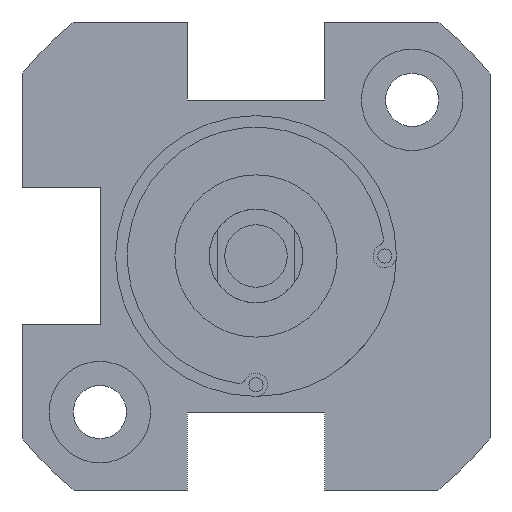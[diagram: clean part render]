
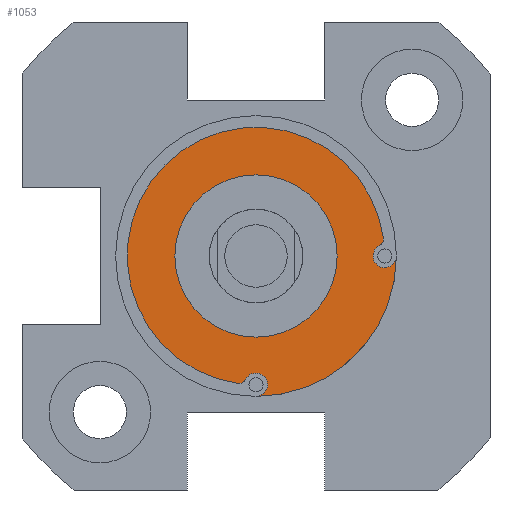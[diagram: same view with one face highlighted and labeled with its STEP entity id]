
A CAD part, front view. The second image highlights one B-rep face of the part: STEP entity #1053.
In plain terms, the highlighted planar face has unit normal (0, -1, 0).
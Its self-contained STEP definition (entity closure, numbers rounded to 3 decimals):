
#31 = DIRECTION ( 'NONE',  ( 0., 0., 1. ) ) ;
#97 = CARTESIAN_POINT ( 'NONE',  ( 7.902, -46.5, 0.665 ) ) ;
#217 = EDGE_CURVE ( 'NONE', #1564, #2709, #703, .T. ) ;
#259 = DIRECTION ( 'NONE',  ( 0., 1., 0. ) ) ;
#305 = VERTEX_POINT ( 'NONE', #1294 ) ;
#327 = VERTEX_POINT ( 'NONE', #97 ) ;
#348 = ORIENTED_EDGE ( 'NONE', *, *, #2360, .F. ) ;
#349 = CARTESIAN_POINT ( 'NONE',  ( 8.25, -46.5, 0. ) ) ;
#417 = AXIS2_PLACEMENT_3D ( 'NONE', #1517, #2299, #2796 ) ;
#477 = ORIENTED_EDGE ( 'NONE', *, *, #2644, .F. ) ;
#554 = EDGE_CURVE ( 'NONE', #2197, #1564, #1389, .T. ) ;
#559 = DIRECTION ( 'NONE',  ( 0., 1., 0. ) ) ;
#587 = CARTESIAN_POINT ( 'NONE',  ( 9., -46.5, 0. ) ) ;
#629 = CARTESIAN_POINT ( 'NONE',  ( 0., -46.5, -5.2 ) ) ;
#640 = CARTESIAN_POINT ( 'NONE',  ( 0., -46.5, -9. ) ) ;
#643 = EDGE_CURVE ( 'NONE', #1372, #2197, #2262, .T. ) ;
#647 = VERTEX_POINT ( 'NONE', #2629 ) ;
#703 = CIRCLE ( 'NONE', #2470, 0.75 ) ;
#724 = DIRECTION ( 'NONE',  ( 0., 1., 0. ) ) ;
#727 = FACE_OUTER_BOUND ( 'NONE', #3028, .T. ) ;
#757 = CIRCLE ( 'NONE', #2732, 0.75 ) ;
#834 = AXIS2_PLACEMENT_3D ( 'NONE', #2983, #2498, #1511 ) ;
#835 = ORIENTED_EDGE ( 'NONE', *, *, #3127, .T. ) ;
#866 = VERTEX_POINT ( 'NONE', #1813 ) ;
#881 = DIRECTION ( 'NONE',  ( 0., 0., -1. ) ) ;
#916 = AXIS2_PLACEMENT_3D ( 'NONE', #3117, #1875, #2120 ) ;
#925 = DIRECTION ( 'NONE',  ( 0., 0., -1. ) ) ;
#978 = CARTESIAN_POINT ( 'NONE',  ( 0., -46.5, 0. ) ) ;
#983 = PLANE ( 'NONE',  #834 ) ;
#1053 = ADVANCED_FACE ( 'NONE', ( #727, #2024 ), #983, .T. ) ;
#1069 = ORIENTED_EDGE ( 'NONE', *, *, #2187, .T. ) ;
#1099 = CARTESIAN_POINT ( 'NONE',  ( -1.108, -46.5, -7.67 ) ) ;
#1104 = DIRECTION ( 'NONE',  ( 0., 0., 1. ) ) ;
#1107 = AXIS2_PLACEMENT_3D ( 'NONE', #2343, #559, #3067 ) ;
#1203 = ORIENTED_EDGE ( 'NONE', *, *, #2690, .T. ) ;
#1294 = CARTESIAN_POINT ( 'NONE',  ( 8.25, -46.5, -0.75 ) ) ;
#1345 = DIRECTION ( 'NONE',  ( 0., 0., 1. ) ) ;
#1372 = VERTEX_POINT ( 'NONE', #1873 ) ;
#1389 = CIRCLE ( 'NONE', #417, 0.5 ) ;
#1443 = VERTEX_POINT ( 'NONE', #629 ) ;
#1511 = DIRECTION ( 'NONE',  ( 0., 0., 1. ) ) ;
#1517 = CARTESIAN_POINT ( 'NONE',  ( -1.108, -46.5, -7.67 ) ) ;
#1564 = VERTEX_POINT ( 'NONE', #2895 ) ;
#1742 = CARTESIAN_POINT ( 'NONE',  ( 0., -46.5, -8.25 ) ) ;
#1813 = CARTESIAN_POINT ( 'NONE',  ( 0., -46.5, 5.2 ) ) ;
#1840 = AXIS2_PLACEMENT_3D ( 'NONE', #1099, #2362, #881 ) ;
#1873 = CARTESIAN_POINT ( 'NONE',  ( -1.179, -46.5, -8.165 ) ) ;
#1875 = DIRECTION ( 'NONE',  ( 0., 1., 0. ) ) ;
#1943 = ORIENTED_EDGE ( 'NONE', *, *, #2579, .T. ) ;
#1998 = DIRECTION ( 'NONE',  ( 0., 0., 1. ) ) ;
#2001 = DIRECTION ( 'NONE',  ( 0., 1., 0. ) ) ;
#2024 = FACE_BOUND ( 'NONE', #2398, .T. ) ;
#2096 = CIRCLE ( 'NONE', #2765, 5.2 ) ;
#2102 = DIRECTION ( 'NONE',  ( 0., 1., 0. ) ) ;
#2120 = DIRECTION ( 'NONE',  ( 0., 0., 1. ) ) ;
#2187 = EDGE_CURVE ( 'NONE', #2526, #305, #2412, .T. ) ;
#2197 = VERTEX_POINT ( 'NONE', #2854 ) ;
#2258 = ORIENTED_EDGE ( 'NONE', *, *, #217, .T. ) ;
#2262 = CIRCLE ( 'NONE', #1840, 0.5 ) ;
#2299 = DIRECTION ( 'NONE',  ( 0., -1., 0. ) ) ;
#2343 = CARTESIAN_POINT ( 'NONE',  ( 0., -46.5, 0. ) ) ;
#2360 = EDGE_CURVE ( 'NONE', #1372, #647, #2564, .T. ) ;
#2362 = DIRECTION ( 'NONE',  ( 0., -1., 0. ) ) ;
#2398 = EDGE_LOOP ( 'NONE', ( #835, #2675 ) ) ;
#2412 = CIRCLE ( 'NONE', #3121, 0.75 ) ;
#2427 = CARTESIAN_POINT ( 'NONE',  ( 7.67, -46.5, 1.108 ) ) ;
#2437 = ORIENTED_EDGE ( 'NONE', *, *, #554, .T. ) ;
#2470 = AXIS2_PLACEMENT_3D ( 'NONE', #1742, #259, #1998 ) ;
#2498 = DIRECTION ( 'NONE',  ( 0., -1., 0. ) ) ;
#2526 = VERTEX_POINT ( 'NONE', #587 ) ;
#2532 = EDGE_CURVE ( 'NONE', #866, #1443, #3205, .T. ) ;
#2564 = CIRCLE ( 'NONE', #2898, 8.25 ) ;
#2579 = EDGE_CURVE ( 'NONE', #305, #327, #757, .T. ) ;
#2591 = DIRECTION ( 'NONE',  ( 0., 1., 0. ) ) ;
#2604 = CIRCLE ( 'NONE', #3095, 0.5 ) ;
#2629 = CARTESIAN_POINT ( 'NONE',  ( 8.165, -46.5, 1.179 ) ) ;
#2644 = EDGE_CURVE ( 'NONE', #2526, #2709, #3171, .T. ) ;
#2675 = ORIENTED_EDGE ( 'NONE', *, *, #2532, .T. ) ;
#2690 = EDGE_CURVE ( 'NONE', #327, #647, #2604, .T. ) ;
#2709 = VERTEX_POINT ( 'NONE', #640 ) ;
#2732 = AXIS2_PLACEMENT_3D ( 'NONE', #2850, #2102, #1104 ) ;
#2765 = AXIS2_PLACEMENT_3D ( 'NONE', #978, #724, #3221 ) ;
#2796 = DIRECTION ( 'NONE',  ( 0., 0., -1. ) ) ;
#2850 = CARTESIAN_POINT ( 'NONE',  ( 8.25, -46.5, 0. ) ) ;
#2854 = CARTESIAN_POINT ( 'NONE',  ( -1.108, -46.5, -8.17 ) ) ;
#2895 = CARTESIAN_POINT ( 'NONE',  ( -0.665, -46.5, -7.902 ) ) ;
#2898 = AXIS2_PLACEMENT_3D ( 'NONE', #2993, #2001, #31 ) ;
#2923 = DIRECTION ( 'NONE',  ( 0., -1., 0. ) ) ;
#2969 = ORIENTED_EDGE ( 'NONE', *, *, #643, .T. ) ;
#2983 = CARTESIAN_POINT ( 'NONE',  ( 0., -46.5, 0. ) ) ;
#2993 = CARTESIAN_POINT ( 'NONE',  ( 0., -46.5, 0. ) ) ;
#3028 = EDGE_LOOP ( 'NONE', ( #1069, #1943, #1203, #348, #2969, #2437, #2258, #477 ) ) ;
#3067 = DIRECTION ( 'NONE',  ( 0., 0., 1. ) ) ;
#3095 = AXIS2_PLACEMENT_3D ( 'NONE', #2427, #2923, #925 ) ;
#3117 = CARTESIAN_POINT ( 'NONE',  ( 0., -46.5, 0. ) ) ;
#3121 = AXIS2_PLACEMENT_3D ( 'NONE', #349, #2591, #1345 ) ;
#3127 = EDGE_CURVE ( 'NONE', #1443, #866, #2096, .T. ) ;
#3171 = CIRCLE ( 'NONE', #916, 9. ) ;
#3205 = CIRCLE ( 'NONE', #1107, 5.2 ) ;
#3221 = DIRECTION ( 'NONE',  ( 0., 0., 1. ) ) ;
